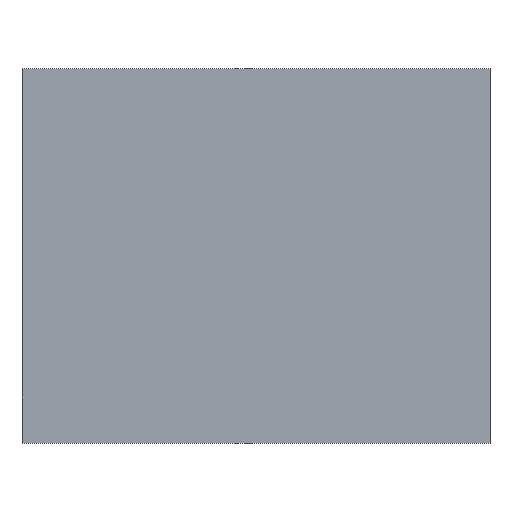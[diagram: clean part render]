
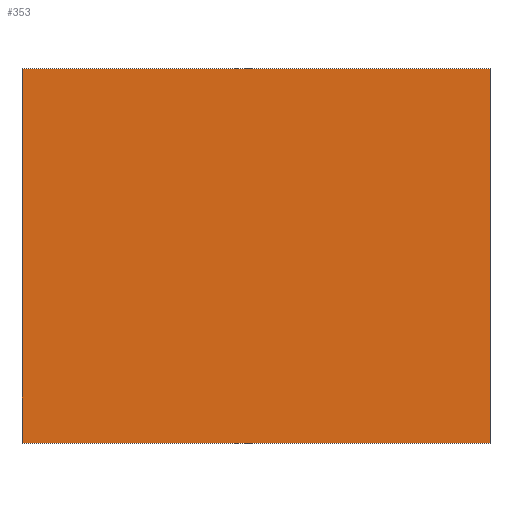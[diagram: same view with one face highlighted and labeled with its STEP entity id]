
A CAD part, top view. The second image highlights one B-rep face of the part: STEP entity #353.
In plain terms, the highlighted planar face has unit normal (0, 0, 1).
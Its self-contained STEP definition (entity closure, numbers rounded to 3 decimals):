
#39 = VERTEX_POINT('',#40);
#40 = CARTESIAN_POINT('',(-5.,-4.,3.7));
#47 = PLANE('',#48);
#48 = AXIS2_PLACEMENT_3D('',#49,#50,#51);
#49 = CARTESIAN_POINT('',(-5.,-4.,0.));
#50 = DIRECTION('',(0.,1.,0.));
#51 = DIRECTION('',(1.,0.,0.));
#59 = PLANE('',#60);
#60 = AXIS2_PLACEMENT_3D('',#61,#62,#63);
#61 = CARTESIAN_POINT('',(-5.,4.,0.));
#62 = DIRECTION('',(1.,0.,-0.));
#63 = DIRECTION('',(0.,-1.,0.));
#71 = EDGE_CURVE('',#39,#72,#74,.T.);
#72 = VERTEX_POINT('',#73);
#73 = CARTESIAN_POINT('',(5.,-4.,3.7));
#74 = SURFACE_CURVE('',#75,(#79,#86),.PCURVE_S1.);
#75 = LINE('',#76,#77);
#76 = CARTESIAN_POINT('',(-5.,-4.,3.7));
#77 = VECTOR('',#78,1.);
#78 = DIRECTION('',(1.,0.,0.));
#79 = PCURVE('',#47,#80);
#80 = DEFINITIONAL_REPRESENTATION('',(#81),#85);
#81 = LINE('',#82,#83);
#82 = CARTESIAN_POINT('',(0.,-3.7));
#83 = VECTOR('',#84,1.);
#84 = DIRECTION('',(1.,0.));
#85 = ( GEOMETRIC_REPRESENTATION_CONTEXT(2) 
PARAMETRIC_REPRESENTATION_CONTEXT() REPRESENTATION_CONTEXT('2D SPACE',''
  ) );
#86 = PCURVE('',#87,#92);
#87 = PLANE('',#88);
#88 = AXIS2_PLACEMENT_3D('',#89,#90,#91);
#89 = CARTESIAN_POINT('',(0.,0.,3.7));
#90 = DIRECTION('',(0.,0.,1.));
#91 = DIRECTION('',(0.,1.,0.));
#92 = DEFINITIONAL_REPRESENTATION('',(#93),#97);
#93 = LINE('',#94,#95);
#94 = CARTESIAN_POINT('',(-4.,5.));
#95 = VECTOR('',#96,1.);
#96 = DIRECTION('',(0.,-1.));
#97 = ( GEOMETRIC_REPRESENTATION_CONTEXT(2) 
PARAMETRIC_REPRESENTATION_CONTEXT() REPRESENTATION_CONTEXT('2D SPACE',''
  ) );
#115 = PLANE('',#116);
#116 = AXIS2_PLACEMENT_3D('',#117,#118,#119);
#117 = CARTESIAN_POINT('',(5.,-4.,0.));
#118 = DIRECTION('',(-1.,0.,0.));
#119 = DIRECTION('',(0.,1.,0.));
#157 = EDGE_CURVE('',#72,#158,#160,.T.);
#158 = VERTEX_POINT('',#159);
#159 = CARTESIAN_POINT('',(5.,4.,3.7));
#160 = SURFACE_CURVE('',#161,(#165,#172),.PCURVE_S1.);
#161 = LINE('',#162,#163);
#162 = CARTESIAN_POINT('',(5.,-4.,3.7));
#163 = VECTOR('',#164,1.);
#164 = DIRECTION('',(0.,1.,0.));
#165 = PCURVE('',#115,#166);
#166 = DEFINITIONAL_REPRESENTATION('',(#167),#171);
#167 = LINE('',#168,#169);
#168 = CARTESIAN_POINT('',(0.,-3.7));
#169 = VECTOR('',#170,1.);
#170 = DIRECTION('',(1.,0.));
#171 = ( GEOMETRIC_REPRESENTATION_CONTEXT(2) 
PARAMETRIC_REPRESENTATION_CONTEXT() REPRESENTATION_CONTEXT('2D SPACE',''
  ) );
#172 = PCURVE('',#87,#173);
#173 = DEFINITIONAL_REPRESENTATION('',(#174),#178);
#174 = LINE('',#175,#176);
#175 = CARTESIAN_POINT('',(-4.,-5.));
#176 = VECTOR('',#177,1.);
#177 = DIRECTION('',(1.,0.));
#178 = ( GEOMETRIC_REPRESENTATION_CONTEXT(2) 
PARAMETRIC_REPRESENTATION_CONTEXT() REPRESENTATION_CONTEXT('2D SPACE',''
  ) );
#196 = PLANE('',#197);
#197 = AXIS2_PLACEMENT_3D('',#198,#199,#200);
#198 = CARTESIAN_POINT('',(5.,4.,0.));
#199 = DIRECTION('',(0.,-1.,0.));
#200 = DIRECTION('',(-1.,0.,0.));
#233 = EDGE_CURVE('',#158,#234,#236,.T.);
#234 = VERTEX_POINT('',#235);
#235 = CARTESIAN_POINT('',(-5.,4.,3.7));
#236 = SURFACE_CURVE('',#237,(#241,#248),.PCURVE_S1.);
#237 = LINE('',#238,#239);
#238 = CARTESIAN_POINT('',(5.,4.,3.7));
#239 = VECTOR('',#240,1.);
#240 = DIRECTION('',(-1.,0.,0.));
#241 = PCURVE('',#196,#242);
#242 = DEFINITIONAL_REPRESENTATION('',(#243),#247);
#243 = LINE('',#244,#245);
#244 = CARTESIAN_POINT('',(0.,-3.7));
#245 = VECTOR('',#246,1.);
#246 = DIRECTION('',(1.,0.));
#247 = ( GEOMETRIC_REPRESENTATION_CONTEXT(2) 
PARAMETRIC_REPRESENTATION_CONTEXT() REPRESENTATION_CONTEXT('2D SPACE',''
  ) );
#248 = PCURVE('',#87,#249);
#249 = DEFINITIONAL_REPRESENTATION('',(#250),#254);
#250 = LINE('',#251,#252);
#251 = CARTESIAN_POINT('',(4.,-5.));
#252 = VECTOR('',#253,1.);
#253 = DIRECTION('',(0.,1.));
#254 = ( GEOMETRIC_REPRESENTATION_CONTEXT(2) 
PARAMETRIC_REPRESENTATION_CONTEXT() REPRESENTATION_CONTEXT('2D SPACE',''
  ) );
#304 = EDGE_CURVE('',#234,#39,#305,.T.);
#305 = SURFACE_CURVE('',#306,(#310,#317),.PCURVE_S1.);
#306 = LINE('',#307,#308);
#307 = CARTESIAN_POINT('',(-5.,4.,3.7));
#308 = VECTOR('',#309,1.);
#309 = DIRECTION('',(0.,-1.,0.));
#310 = PCURVE('',#59,#311);
#311 = DEFINITIONAL_REPRESENTATION('',(#312),#316);
#312 = LINE('',#313,#314);
#313 = CARTESIAN_POINT('',(0.,-3.7));
#314 = VECTOR('',#315,1.);
#315 = DIRECTION('',(1.,0.));
#316 = ( GEOMETRIC_REPRESENTATION_CONTEXT(2) 
PARAMETRIC_REPRESENTATION_CONTEXT() REPRESENTATION_CONTEXT('2D SPACE',''
  ) );
#317 = PCURVE('',#87,#318);
#318 = DEFINITIONAL_REPRESENTATION('',(#319),#323);
#319 = LINE('',#320,#321);
#320 = CARTESIAN_POINT('',(4.,5.));
#321 = VECTOR('',#322,1.);
#322 = DIRECTION('',(-1.,-0.));
#323 = ( GEOMETRIC_REPRESENTATION_CONTEXT(2) 
PARAMETRIC_REPRESENTATION_CONTEXT() REPRESENTATION_CONTEXT('2D SPACE',''
  ) );
#353 = ADVANCED_FACE('',(#354),#87,.T.);
#354 = FACE_BOUND('',#355,.T.);
#355 = EDGE_LOOP('',(#356,#357,#358,#359));
#356 = ORIENTED_EDGE('',*,*,#71,.T.);
#357 = ORIENTED_EDGE('',*,*,#157,.T.);
#358 = ORIENTED_EDGE('',*,*,#233,.T.);
#359 = ORIENTED_EDGE('',*,*,#304,.T.);
